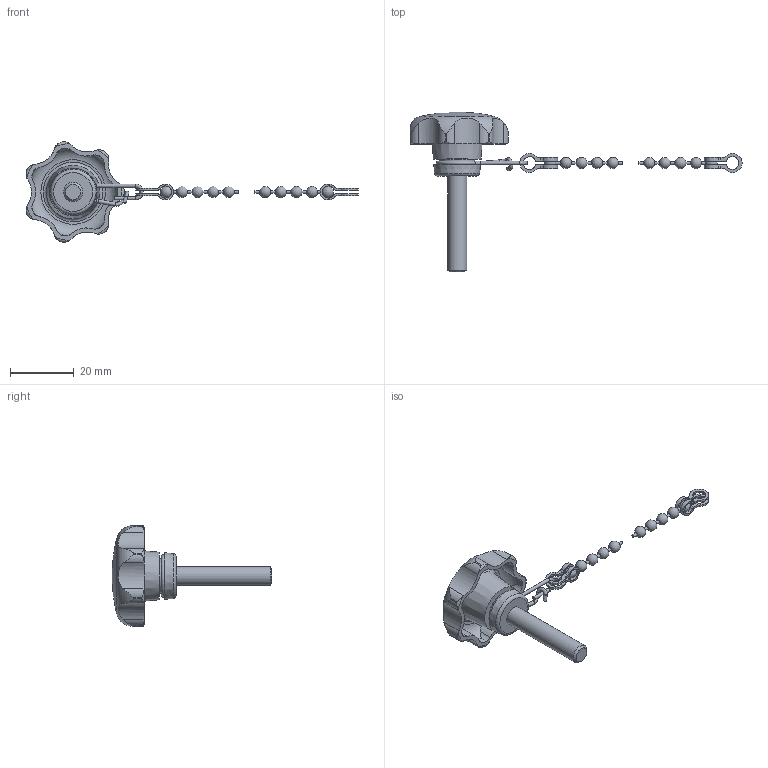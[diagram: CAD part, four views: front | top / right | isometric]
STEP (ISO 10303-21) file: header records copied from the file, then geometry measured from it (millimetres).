
FILE_DESCRIPTION( ( 'STEP AP203' ), '1' );
FILE_NAME( 'C:/Temp/Ganter_Step_05_03_2020/data/2_2/gn_6336_13/gn_6336_13_2/Star knob GN 6336.13-32-M6-30-K.stp', '2020-03-05T12:12:15', ( 'License CC BY-ND 4.0' ), ( 'CADENAS' ), ' ', 'PARTsolutions', ' ' );
FILE_SCHEMA( ( 'CONFIG_CONTROL_DESIGN' ) );
Length unit declared in the file: millimetre
Products named in the file (3): Star knob GN 6336.13-32-M6-30-K; _Star knob GN 6336.13-32-M6-30-K 6; _Star knob GN 111.5-200-14 k2
Assembly tree (2 placements, depth 2):
  Star knob GN 6336.13-32-M6-30-K
    _Star knob GN 6336.13-32-M6-30-K 6
    _Star knob GN 111.5-200-14 k2
Bounding box: 103.76 x 50 x 31.36 mm (x, y, z)
Volume: 6860.3 mm3; surface area: 4904 mm2
Topology: 2 solids, 2 shells, 169 faces, 489 edges, 316 vertices
Faces by surface type: cylinder 103, plane 26, torus 18, sphere 11, cone 11
Full cylindrical faces by diameter (mm): 0.9 x10, 1.1 x4, 1.11 x1, 6 x1, 10.9 x1
Entity records: 6303 total; most frequent: CARTESIAN_POINT 2059, DIRECTION 865, ORIENTED_EDGE 846, EDGE_CURVE 423, AXIS2_PLACEMENT_3D 373, VERTEX_POINT 301, EDGE_LOOP 219, FACE_OUTER_BOUND 204
